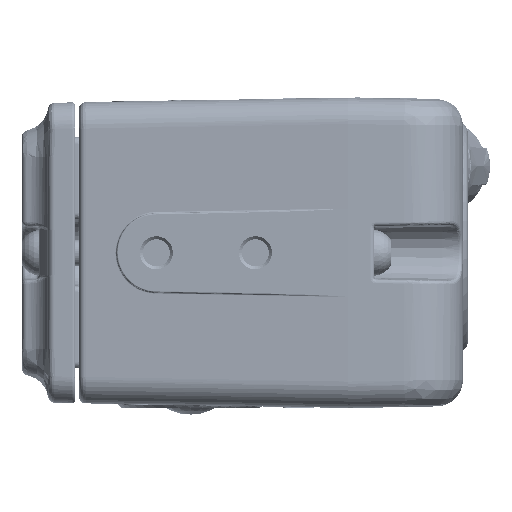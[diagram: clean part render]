
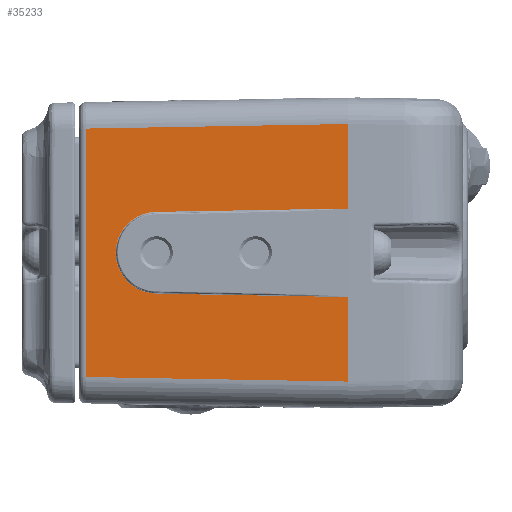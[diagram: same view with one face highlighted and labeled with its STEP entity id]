
A CAD part, left-side view. The second image highlights one B-rep face of the part: STEP entity #35233.
In plain terms, the highlighted planar face has unit normal (-1, 0.018, 0).
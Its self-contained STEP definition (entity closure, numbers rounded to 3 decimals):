
#5685=ELLIPSE('',#158541,3.1,3.1);
#9992=PLANE('',#158542);
#17005=LINE('',#291859,#26167);
#17006=LINE('',#291870,#26168);
#17007=LINE('',#291872,#26169);
#17008=LINE('',#291874,#26170);
#17009=LINE('',#291876,#26171);
#17010=LINE('',#291878,#26172);
#17011=LINE('',#291888,#26173);
#26167=VECTOR('',#190992,1.);
#26168=VECTOR('',#190993,1.);
#26169=VECTOR('',#190994,1.);
#26170=VECTOR('',#190995,1.);
#26171=VECTOR('',#190996,1.);
#26172=VECTOR('',#190997,1.);
#26173=VECTOR('',#190998,1.);
#35233=ADVANCED_FACE('',(#46984),#9992,.T.);
#46984=FACE_OUTER_BOUND('',#56829,.T.);
#56829=EDGE_LOOP('',(#93291,#93292,#93293,#93294,#93295,#93296,#93297,#93298,
#93299,#93300));
#93291=ORIENTED_EDGE('',*,*,#131878,.T.);
#93292=ORIENTED_EDGE('',*,*,#131879,.T.);
#93293=ORIENTED_EDGE('',*,*,#131880,.F.);
#93294=ORIENTED_EDGE('',*,*,#131881,.T.);
#93295=ORIENTED_EDGE('',*,*,#131882,.T.);
#93296=ORIENTED_EDGE('',*,*,#131883,.T.);
#93297=ORIENTED_EDGE('',*,*,#131884,.F.);
#93298=ORIENTED_EDGE('',*,*,#131885,.T.);
#93299=ORIENTED_EDGE('',*,*,#131886,.T.);
#93300=ORIENTED_EDGE('',*,*,#131887,.T.);
#112442=VERTEX_POINT('',#291860);
#112443=VERTEX_POINT('',#291861);
#112444=VERTEX_POINT('',#291869);
#112445=VERTEX_POINT('',#291871);
#112446=VERTEX_POINT('',#291873);
#112447=VERTEX_POINT('',#291875);
#112448=VERTEX_POINT('',#291877);
#112449=VERTEX_POINT('',#291879);
#112450=VERTEX_POINT('',#291887);
#112451=VERTEX_POINT('',#291889);
#131878=EDGE_CURVE('',#112442,#112443,#17005,.T.);
#131879=EDGE_CURVE('',#112443,#112444,#142351,.T.);
#131880=EDGE_CURVE('',#112445,#112444,#17006,.T.);
#131881=EDGE_CURVE('',#112445,#112446,#17007,.T.);
#131882=EDGE_CURVE('',#112446,#112447,#17008,.T.);
#131883=EDGE_CURVE('',#112447,#112448,#17009,.T.);
#131884=EDGE_CURVE('',#112449,#112448,#17010,.T.);
#131885=EDGE_CURVE('',#112449,#112450,#142352,.T.);
#131886=EDGE_CURVE('',#112450,#112451,#17011,.T.);
#131887=EDGE_CURVE('',#112451,#112442,#5685,.T.);
#142351=B_SPLINE_CURVE_WITH_KNOTS('',3,(#291862,#291863,#291864,#291865,
#291866,#291867,#291868),.UNSPECIFIED.,.F.,.F.,(4,3,4),(0.,0.82,
1.),.UNSPECIFIED.);
#142352=B_SPLINE_CURVE_WITH_KNOTS('',3,(#291880,#291881,#291882,#291883,
#291884,#291885,#291886),.UNSPECIFIED.,.F.,.F.,(4,3,4),(0.,0.18,
1.),.UNSPECIFIED.);
#158541=AXIS2_PLACEMENT_3D('',#291890,#190999,#191000);
#158542=AXIS2_PLACEMENT_3D('',#291891,#191001,#191002);
#190992=DIRECTION('',(-0.017,-1.,0.017));
#190993=DIRECTION('',(0.,0.,-1.));
#190994=DIRECTION('',(0.017,1.,-0.017));
#190995=DIRECTION('',(0.,0.,-1.));
#190996=DIRECTION('',(-0.017,-1.,-0.017));
#190997=DIRECTION('',(0.,0.,-1.));
#190998=DIRECTION('',(0.017,1.,0.017));
#190999=DIRECTION('',(1.,-0.017,0.));
#191000=DIRECTION('',(-0.017,-1.,0.));
#191001=DIRECTION('',(-1.,0.017,0.));
#191002=DIRECTION('',(0.017,1.,0.));
#291859=CARTESIAN_POINT('',(-22.7,-5.148,3.354));
#291860=CARTESIAN_POINT('',(-22.446,9.402,3.1));
#291861=CARTESIAN_POINT('',(-22.7,-5.149,3.354));
#291862=CARTESIAN_POINT('',(-22.7,-5.149,3.354));
#291863=CARTESIAN_POINT('',(-22.7,-5.149,3.354));
#291864=CARTESIAN_POINT('',(-22.7,-5.15,3.355));
#291865=CARTESIAN_POINT('',(-22.7,-5.15,3.356));
#291866=CARTESIAN_POINT('',(-22.7,-5.15,3.356));
#291867=CARTESIAN_POINT('',(-22.7,-5.15,3.356));
#291868=CARTESIAN_POINT('',(-22.7,-5.15,3.356));
#291869=CARTESIAN_POINT('',(-22.7,-5.15,3.356));
#291870=CARTESIAN_POINT('',(-22.7,-5.15,11.75));
#291871=CARTESIAN_POINT('',(-22.7,-5.15,9.75));
#291872=CARTESIAN_POINT('',(-22.701,-5.185,9.751));
#291873=CARTESIAN_POINT('',(-22.353,14.709,9.404));
#291874=CARTESIAN_POINT('',(-22.353,14.709,-11.395));
#291875=CARTESIAN_POINT('',(-22.353,14.709,-9.404));
#291876=CARTESIAN_POINT('',(-22.693,-4.775,-9.744));
#291877=CARTESIAN_POINT('',(-22.7,-5.15,-9.75));
#291878=CARTESIAN_POINT('',(-22.7,-5.15,11.75));
#291879=CARTESIAN_POINT('',(-22.7,-5.15,-3.356));
#291880=CARTESIAN_POINT('',(-22.7,-5.15,-3.356));
#291881=CARTESIAN_POINT('',(-22.7,-5.15,-3.356));
#291882=CARTESIAN_POINT('',(-22.7,-5.15,-3.356));
#291883=CARTESIAN_POINT('',(-22.7,-5.15,-3.356));
#291884=CARTESIAN_POINT('',(-22.7,-5.15,-3.355));
#291885=CARTESIAN_POINT('',(-22.7,-5.149,-3.354));
#291886=CARTESIAN_POINT('',(-22.7,-5.149,-3.354));
#291887=CARTESIAN_POINT('',(-22.7,-5.149,-3.354));
#291888=CARTESIAN_POINT('',(-22.446,9.404,-3.099));
#291889=CARTESIAN_POINT('',(-22.446,9.402,-3.1));
#291890=CARTESIAN_POINT('',(-22.447,9.348,0.));
#291891=CARTESIAN_POINT('',(-22.7,-5.15,11.75));
